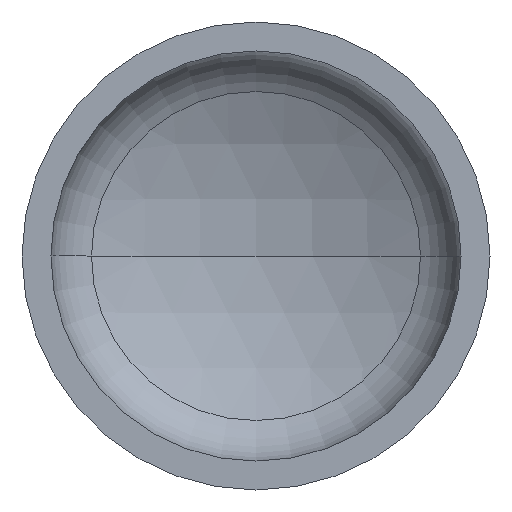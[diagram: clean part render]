
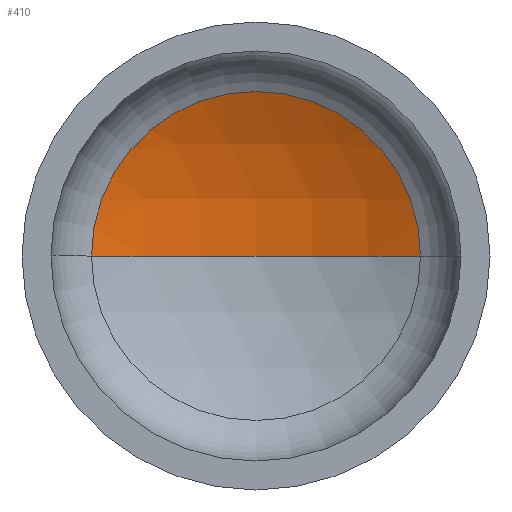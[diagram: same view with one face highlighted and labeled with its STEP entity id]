
A CAD part, front view. The second image highlights one B-rep face of the part: STEP entity #410.
In plain terms, the highlighted spherical face has radius 880 mm.
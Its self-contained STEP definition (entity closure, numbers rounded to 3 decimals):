
#17 = DIRECTION ( 'NONE',  ( 1., 0., 0. ) ) ;
#22 = DIRECTION ( 'NONE',  ( 0., 0., 1. ) ) ;
#24 = AXIS2_PLACEMENT_3D ( 'NONE', #337, #22, #17 ) ;
#25 = AXIS2_PLACEMENT_3D ( 'NONE', #177, #345, #204 ) ;
#26 = AXIS2_PLACEMENT_3D ( 'NONE', #212, #205, #211 ) ;
#29 = EDGE_LOOP ( 'NONE', ( #71, #115, #144 ) ) ;
#66 = EDGE_CURVE ( 'NONE', #93, #102, #202, .T. ) ;
#70 = EDGE_CURVE ( 'NONE', #101, #93, #381, .T. ) ;
#71 = ORIENTED_EDGE ( 'NONE', *, *, #72, .F. ) ;
#72 = EDGE_CURVE ( 'NONE', #101, #102, #320, .T. ) ;
#93 = VERTEX_POINT ( 'NONE', #150 ) ;
#101 = VERTEX_POINT ( 'NONE', #223 ) ;
#102 = VERTEX_POINT ( 'NONE', #300 ) ;
#115 = ORIENTED_EDGE ( 'NONE', *, *, #70, .T. ) ;
#144 = ORIENTED_EDGE ( 'NONE', *, *, #66, .T. ) ;
#150 = CARTESIAN_POINT ( 'NONE',  ( 386.704, 272.707, 0. ) ) ;
#177 = CARTESIAN_POINT ( 'NONE',  ( 0., -517.774, 0. ) ) ;
#181 = CARTESIAN_POINT ( 'NONE',  ( 0., -517.774, 0. ) ) ;
#197 = SPHERICAL_SURFACE ( 'NONE', #267, 880. ) ;
#202 = CIRCLE ( 'NONE', #26, 386.704 ) ;
#204 = DIRECTION ( 'NONE',  ( -1., 0., 0. ) ) ;
#205 = DIRECTION ( 'NONE',  ( 0., -1., 0. ) ) ;
#206 = DIRECTION ( 'NONE',  ( -1., 0., 0. ) ) ;
#211 = DIRECTION ( 'NONE',  ( 1., 0., 0. ) ) ;
#212 = CARTESIAN_POINT ( 'NONE',  ( 0., 272.707, 0. ) ) ;
#223 = CARTESIAN_POINT ( 'NONE',  ( 0., 362.226, 0. ) ) ;
#267 = AXIS2_PLACEMENT_3D ( 'NONE', #181, #307, #206 ) ;
#300 = CARTESIAN_POINT ( 'NONE',  ( -386.704, 272.707, 0. ) ) ;
#307 = DIRECTION ( 'NONE',  ( 0., 0., -1. ) ) ;
#320 = CIRCLE ( 'NONE', #24, 880. ) ;
#324 = FACE_OUTER_BOUND ( 'NONE', #29, .T. ) ;
#337 = CARTESIAN_POINT ( 'NONE',  ( 0., -517.774, 0. ) ) ;
#345 = DIRECTION ( 'NONE',  ( 0., 0., -1. ) ) ;
#381 = CIRCLE ( 'NONE', #25, 880. ) ;
#410 = ADVANCED_FACE ( 'NONE', ( #324 ), #197, .F. ) ;
